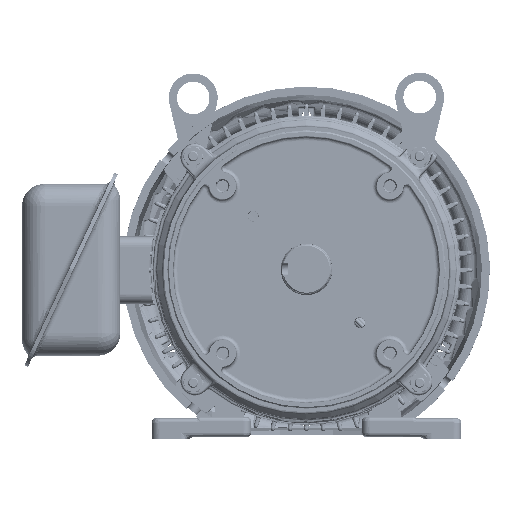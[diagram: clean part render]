
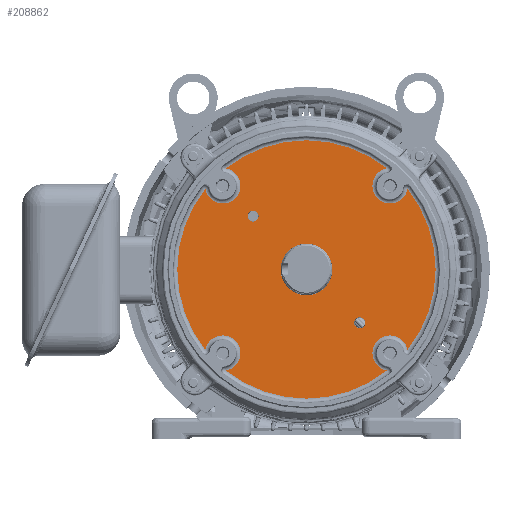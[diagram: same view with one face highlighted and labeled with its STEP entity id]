
A CAD part, top view. The second image highlights one B-rep face of the part: STEP entity #208862.
In plain terms, the highlighted planar face has unit normal (0, 0, 1) as drawn and (0, 0, -1) by its records, which use the part's own axes.
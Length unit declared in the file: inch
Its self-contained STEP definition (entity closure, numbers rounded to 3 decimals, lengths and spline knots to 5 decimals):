
#192019=CARTESIAN_POINT('',(-1.63518,-1.63518,-1.391));
#192020=DIRECTION('',(0.,0.,1.));
#192021=DIRECTION('',(-1.,0.,0.));
#192022=AXIS2_PLACEMENT_3D('',#192019,#192020,#192021);
#192024=CARTESIAN_POINT('',(-1.63518,-1.63518,-1.391));
#192025=DIRECTION('',(0.,0.,1.));
#192026=DIRECTION('',(1.,0.,0.));
#192027=AXIS2_PLACEMENT_3D('',#192024,#192025,#192026);
#192029=CARTESIAN_POINT('',(1.63518,1.63518,-1.391));
#192030=DIRECTION('',(0.,0.,1.));
#192031=DIRECTION('',(-1.,0.,0.));
#192032=AXIS2_PLACEMENT_3D('',#192029,#192030,#192031);
#192034=CARTESIAN_POINT('',(1.63518,1.63518,-1.391));
#192035=DIRECTION('',(0.,0.,1.));
#192036=DIRECTION('',(1.,0.,0.));
#192037=AXIS2_PLACEMENT_3D('',#192034,#192035,#192036);
#192039=CARTESIAN_POINT('',(0.,0.,-1.391));
#192040=DIRECTION('',(0.,0.,1.));
#192041=DIRECTION('',(-1.,0.,0.));
#192042=AXIS2_PLACEMENT_3D('',#192039,#192040,#192041);
#192044=CARTESIAN_POINT('',(0.,0.,-1.391));
#192045=DIRECTION('',(0.,0.,1.));
#192046=DIRECTION('',(1.,0.,0.));
#192047=AXIS2_PLACEMENT_3D('',#192044,#192045,#192046);
#192059=CARTESIAN_POINT('',(0.,0.,-1.391));
#192060=DIRECTION('',(0.,0.,-1.));
#192061=DIRECTION('',(-0.782,-0.623,0.));
#192062=AXIS2_PLACEMENT_3D('',#192059,#192060,#192061);
#196727=CARTESIAN_POINT('',(0.,0.,-1.391));
#196728=DIRECTION('',(0.,0.,-1.));
#196729=DIRECTION('',(-0.623,0.782,0.));
#196730=AXIS2_PLACEMENT_3D('',#196727,#196728,#196729);
#196807=CARTESIAN_POINT('',(-2.56326,2.56326,-1.391));
#196808=DIRECTION('',(0.,0.,1.));
#196809=DIRECTION('',(-0.983,-0.182,0.));
#196810=AXIS2_PLACEMENT_3D('',#196807,#196808,#196809);
#196827=CARTESIAN_POINT('',(2.56326,2.56326,-1.391));
#196828=DIRECTION('',(0.,0.,1.));
#196829=DIRECTION('',(-0.182,0.983,0.));
#196830=AXIS2_PLACEMENT_3D('',#196827,#196828,#196829);
#196877=CARTESIAN_POINT('',(0.,0.,-1.391));
#196878=DIRECTION('',(0.,0.,-1.));
#196879=DIRECTION('',(0.782,0.623,0.));
#196880=AXIS2_PLACEMENT_3D('',#196877,#196878,#196879);
#196927=CARTESIAN_POINT('',(2.56326,-2.56326,-1.391));
#196928=DIRECTION('',(0.,0.,1.));
#196929=DIRECTION('',(0.983,0.182,0.));
#196930=AXIS2_PLACEMENT_3D('',#196927,#196928,#196929);
#196977=CARTESIAN_POINT('',(0.,0.,-1.391));
#196978=DIRECTION('',(0.,0.,-1.));
#196979=DIRECTION('',(0.623,-0.782,0.));
#196980=AXIS2_PLACEMENT_3D('',#196977,#196978,#196979);
#197027=CARTESIAN_POINT('',(-2.56326,-2.56326,-1.391));
#197028=DIRECTION('',(0.,0.,1.));
#197029=DIRECTION('',(0.182,-0.983,0.));
#197030=AXIS2_PLACEMENT_3D('',#197027,#197028,#197029);
#202127=CARTESIAN_POINT('',(-3.09683,-2.46469,-1.391));
#202128=CARTESIAN_POINT('',(-3.09683,2.46469,-1.391));
#202129=VERTEX_POINT('',#202127);
#202130=VERTEX_POINT('',#202128);
#202135=CARTESIAN_POINT('',(-2.46469,-3.09683,-1.391));
#202136=VERTEX_POINT('',#202135);
#202141=CARTESIAN_POINT('',(2.46469,-3.09683,-1.391));
#202142=VERTEX_POINT('',#202141);
#202147=CARTESIAN_POINT('',(3.09683,-2.46469,-1.391));
#202148=VERTEX_POINT('',#202147);
#202153=CARTESIAN_POINT('',(3.09683,2.46469,-1.391));
#202154=VERTEX_POINT('',#202153);
#202159=CARTESIAN_POINT('',(2.46469,3.09683,-1.391));
#202160=VERTEX_POINT('',#202159);
#202165=CARTESIAN_POINT('',(-2.46469,3.09683,-1.391));
#202166=VERTEX_POINT('',#202165);
#202220=CARTESIAN_POINT('',(-1.80668,-1.63518,-1.391));
#202221=CARTESIAN_POINT('',(-1.46368,-1.63518,-1.391));
#202222=VERTEX_POINT('',#202220);
#202223=VERTEX_POINT('',#202221);
#202228=CARTESIAN_POINT('',(1.46368,1.63518,-1.391));
#202229=CARTESIAN_POINT('',(1.80668,1.63518,-1.391));
#202230=VERTEX_POINT('',#202228);
#202231=VERTEX_POINT('',#202229);
#202264=CARTESIAN_POINT('',(-0.7925,0.,-1.391));
#202265=CARTESIAN_POINT('',(0.7925,0.,-1.391));
#202266=VERTEX_POINT('',#202264);
#202267=VERTEX_POINT('',#202265);
#208822=CARTESIAN_POINT('',(0.,0.,-1.391));
#208823=DIRECTION('',(0.,0.,-1.));
#208824=DIRECTION('',(1.,0.,0.));
#208825=AXIS2_PLACEMENT_3D('',#208822,#208823,#208824);
#208826=PLANE('',#208825);
#208828=ORIENTED_EDGE('',*,*,#208827,.F.);
#208830=ORIENTED_EDGE('',*,*,#208829,.F.);
#208832=ORIENTED_EDGE('',*,*,#208831,.F.);
#208834=ORIENTED_EDGE('',*,*,#208833,.F.);
#208836=ORIENTED_EDGE('',*,*,#208835,.F.);
#208838=ORIENTED_EDGE('',*,*,#208837,.F.);
#208840=ORIENTED_EDGE('',*,*,#208839,.F.);
#208842=ORIENTED_EDGE('',*,*,#208841,.F.);
#208843=EDGE_LOOP('',(#208828,#208830,#208832,#208834,#208836,#208838,#208840,
#208842));
#208844=FACE_OUTER_BOUND('',#208843,.F.);
#208846=ORIENTED_EDGE('',*,*,#208845,.F.);
#208848=ORIENTED_EDGE('',*,*,#208847,.F.);
#208849=EDGE_LOOP('',(#208846,#208848));
#208850=FACE_BOUND('',#208849,.F.);
#208851=ORIENTED_EDGE('',*,*,#208812,.F.);
#208853=ORIENTED_EDGE('',*,*,#208852,.F.);
#208854=EDGE_LOOP('',(#208851,#208853));
#208855=FACE_BOUND('',#208854,.F.);
#208857=ORIENTED_EDGE('',*,*,#208856,.F.);
#208859=ORIENTED_EDGE('',*,*,#208858,.F.);
#208860=EDGE_LOOP('',(#208857,#208859));
#208861=FACE_BOUND('',#208860,.F.);
#208862=ADVANCED_FACE('',(#208844,#208850,#208855,#208861),#208826,.T.);
#192023=CIRCLE('',#192022,0.1715);
#192028=CIRCLE('',#192027,0.1715);
#192033=CIRCLE('',#192032,0.1715);
#192038=CIRCLE('',#192037,0.1715);
#192043=CIRCLE('',#192042,0.7925);
#192048=CIRCLE('',#192047,0.7925);
#192063=CIRCLE('',#192062,3.95791);
#196731=CIRCLE('',#196730,3.95791);
#196811=CIRCLE('',#196810,0.54259);
#196831=CIRCLE('',#196830,0.54259);
#196881=CIRCLE('',#196880,3.95791);
#196931=CIRCLE('',#196930,0.54259);
#196981=CIRCLE('',#196980,3.95791);
#197031=CIRCLE('',#197030,0.54259);
#208812=EDGE_CURVE('',#202230,#202231,#192033,.T.);
#208827=EDGE_CURVE('',#202129,#202130,#192063,.T.);
#208829=EDGE_CURVE('',#202136,#202129,#197031,.T.);
#208831=EDGE_CURVE('',#202142,#202136,#196981,.T.);
#208833=EDGE_CURVE('',#202148,#202142,#196931,.T.);
#208835=EDGE_CURVE('',#202154,#202148,#196881,.T.);
#208837=EDGE_CURVE('',#202160,#202154,#196831,.T.);
#208839=EDGE_CURVE('',#202166,#202160,#196731,.T.);
#208841=EDGE_CURVE('',#202130,#202166,#196811,.T.);
#208845=EDGE_CURVE('',#202222,#202223,#192023,.T.);
#208847=EDGE_CURVE('',#202223,#202222,#192028,.T.);
#208852=EDGE_CURVE('',#202231,#202230,#192038,.T.);
#208856=EDGE_CURVE('',#202266,#202267,#192043,.T.);
#208858=EDGE_CURVE('',#202267,#202266,#192048,.T.);
